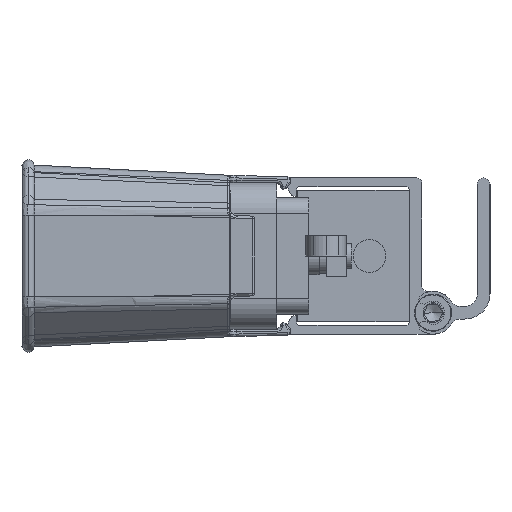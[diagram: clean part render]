
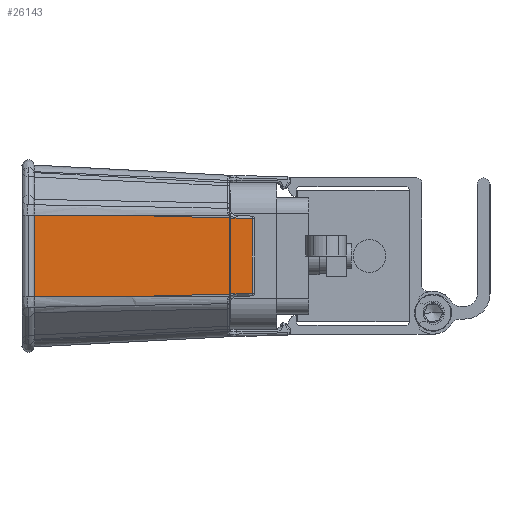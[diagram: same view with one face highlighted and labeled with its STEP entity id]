
A CAD part, left-side view. The second image highlights one B-rep face of the part: STEP entity #26143.
In plain terms, the highlighted planar face has unit normal (-1, -0.026, 0).
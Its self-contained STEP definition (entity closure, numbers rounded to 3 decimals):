
#382 = ORIENTED_EDGE ( 'NONE', *, *, #8982, .T. ) ;
#582 = ORIENTED_EDGE ( 'NONE', *, *, #9330, .F. ) ;
#585 = VERTEX_POINT ( 'NONE', #29324 ) ;
#809 = ORIENTED_EDGE ( 'NONE', *, *, #15635, .F. ) ;
#828 = B_SPLINE_CURVE_WITH_KNOTS ( 'NONE', 3,
 ( #26530, #16828, #1366, #14725 ),
 .UNSPECIFIED., .F., .F.,
 ( 4, 4 ),
 ( -0.02, -0.001 ),
 .UNSPECIFIED. ) ;
#904 = CARTESIAN_POINT ( 'NONE',  ( -60., 35.595, -7.536 ) ) ;
#1366 = CARTESIAN_POINT ( 'NONE',  ( -60.847, 67.914, 7.986 ) ) ;
#1507 = VECTOR ( 'NONE', #26391, 1000. ) ;
#1959 = CARTESIAN_POINT ( 'NONE',  ( -60.171, 42.111, -7.707 ) ) ;
#2278 = CARTESIAN_POINT ( 'NONE',  ( -60.512, 55.132, -8.048 ) ) ;
#2566 = CARTESIAN_POINT ( 'NONE',  ( -59.882, 31.087, 7.418 ) ) ;
#2718 = VERTEX_POINT ( 'NONE', #24676 ) ;
#2983 = DIRECTION ( 'NONE',  ( -0.026, 0.999, 0.026 ) ) ;
#3059 = VERTEX_POINT ( 'NONE', #2566 ) ;
#3884 = DIRECTION ( 'NONE',  ( 0., 0., -1. ) ) ;
#4046 = EDGE_CURVE ( 'NONE', #22804, #5780, #22390, .T. ) ;
#4055 = CARTESIAN_POINT ( 'NONE',  ( -59.882, 31.087, -7.405 ) ) ;
#4831 = CARTESIAN_POINT ( 'NONE',  ( -60., 35.595, 7.536 ) ) ;
#4863 = AXIS2_PLACEMENT_3D ( 'NONE', #24491, #15410, #3884 ) ;
#4906 = ORIENTED_EDGE ( 'NONE', *, *, #29124, .T. ) ;
#5229 = ORIENTED_EDGE ( 'NONE', *, *, #5964, .T. ) ;
#5780 = VERTEX_POINT ( 'NONE', #16556 ) ;
#5964 = EDGE_CURVE ( 'NONE', #25577, #585, #828, .T. ) ;
#7322 = VECTOR ( 'NONE', #29148, 1000. ) ;
#7876 = VECTOR ( 'NONE', #22821, 1000. ) ;
#8279 = PLANE ( 'NONE',  #4863 ) ;
#8285 = ORIENTED_EDGE ( 'NONE', *, *, #26868, .F. ) ;
#8551 = CARTESIAN_POINT ( 'NONE',  ( -60.001, 35.6, 7.536 ) ) ;
#8583 = LINE ( 'NONE', #4055, #26739 ) ;
#8779 = EDGE_LOOP ( 'NONE', ( #4906, #582, #21867, #9567, #8285, #11325, #23392, #382, #809, #5229 ) ) ;
#8982 = EDGE_CURVE ( 'NONE', #15504, #16704, #16492, .T. ) ;
#9330 = EDGE_CURVE ( 'NONE', #22804, #22684, #27662, .T. ) ;
#9567 = ORIENTED_EDGE ( 'NONE', *, *, #24868, .F. ) ;
#10181 = VECTOR ( 'NONE', #2983, 1000. ) ;
#11151 = CARTESIAN_POINT ( 'NONE',  ( -60., 35.595, -7.536 ) ) ;
#11155 = DIRECTION ( 'NONE',  ( 0., 0., -1. ) ) ;
#11310 = LINE ( 'NONE', #11151, #7876 ) ;
#11325 = ORIENTED_EDGE ( 'NONE', *, *, #21974, .F. ) ;
#11370 = CARTESIAN_POINT ( 'NONE',  ( -60.001, 35.6, -7.536 ) ) ;
#11877 = CARTESIAN_POINT ( 'NONE',  ( -61.014, 74.304, -8.043 ) ) ;
#12256 = VERTEX_POINT ( 'NONE', #28893 ) ;
#12546 = VECTOR ( 'NONE', #29840, 1000. ) ;
#14513 = LINE ( 'NONE', #23746, #10181 ) ;
#14725 = CARTESIAN_POINT ( 'NONE',  ( -61.014, 74.304, 8.043 ) ) ;
#15410 = DIRECTION ( 'NONE',  ( -1., -0.026, 0. ) ) ;
#15504 = VERTEX_POINT ( 'NONE', #26281 ) ;
#15635 = EDGE_CURVE ( 'NONE', #25577, #16704, #22319, .T. ) ;
#16492 = LINE ( 'NONE', #4831, #12546 ) ;
#16499 = CARTESIAN_POINT ( 'NONE',  ( -60.512, 55.132, -8.048 ) ) ;
#16556 = CARTESIAN_POINT ( 'NONE',  ( -60.001, 35.6, -7.536 ) ) ;
#16704 = VERTEX_POINT ( 'NONE', #20082 ) ;
#16828 = CARTESIAN_POINT ( 'NONE',  ( -60.679, 61.523, 8.018 ) ) ;
#17355 = FACE_OUTER_BOUND ( 'NONE', #8779, .T. ) ;
#17624 = CARTESIAN_POINT ( 'NONE',  ( -61.014, 74.304, -8.056 ) ) ;
#17637 = EDGE_CURVE ( 'NONE', #3059, #15504, #14513, .T. ) ;
#18487 = CARTESIAN_POINT ( 'NONE',  ( -60.341, 48.622, -7.877 ) ) ;
#19145 = CARTESIAN_POINT ( 'NONE',  ( -60.847, 67.914, -7.986 ) ) ;
#20051 = LINE ( 'NONE', #17624, #7322 ) ;
#20075 = CARTESIAN_POINT ( 'NONE',  ( -60.512, 55.132, 8.048 ) ) ;
#20082 = CARTESIAN_POINT ( 'NONE',  ( -60.001, 35.6, 7.536 ) ) ;
#21263 = CARTESIAN_POINT ( 'NONE',  ( -60.512, 55.132, -8.048 ) ) ;
#21426 = CARTESIAN_POINT ( 'NONE',  ( -60.679, 61.523, -8.018 ) ) ;
#21867 = ORIENTED_EDGE ( 'NONE', *, *, #4046, .T. ) ;
#21974 = EDGE_CURVE ( 'NONE', #3059, #12256, #8583, .T. ) ;
#22319 = B_SPLINE_CURVE_WITH_KNOTS ( 'NONE', 3,
 ( #20075, #29170, #22351, #8551 ),
 .UNSPECIFIED., .F., .F.,
 ( 4, 4 ),
 ( 0., 1. ),
 .UNSPECIFIED. ) ;
#22351 = CARTESIAN_POINT ( 'NONE',  ( -60.171, 42.111, 7.707 ) ) ;
#22390 = B_SPLINE_CURVE_WITH_KNOTS ( 'NONE', 3,
 ( #16499, #18487, #1959, #11370 ),
 .UNSPECIFIED., .F., .F.,
 ( 4, 4 ),
 ( 0., 1. ),
 .UNSPECIFIED. ) ;
#22684 = VERTEX_POINT ( 'NONE', #24729 ) ;
#22804 = VERTEX_POINT ( 'NONE', #2278 ) ;
#22821 = DIRECTION ( 'NONE',  ( -0.026, 0.999, -0.026 ) ) ;
#23392 = ORIENTED_EDGE ( 'NONE', *, *, #17637, .T. ) ;
#23746 = CARTESIAN_POINT ( 'NONE',  ( -60., 35.595, 7.536 ) ) ;
#24491 = CARTESIAN_POINT ( 'NONE',  ( -59.999, 35.561, -8.864 ) ) ;
#24676 = CARTESIAN_POINT ( 'NONE',  ( -59.962, 34.139, -7.498 ) ) ;
#24729 = CARTESIAN_POINT ( 'NONE',  ( -61.014, 74.304, -8.043 ) ) ;
#24868 = EDGE_CURVE ( 'NONE', #2718, #5780, #11310, .T. ) ;
#25577 = VERTEX_POINT ( 'NONE', #25901 ) ;
#25901 = CARTESIAN_POINT ( 'NONE',  ( -60.512, 55.132, 8.048 ) ) ;
#26143 = ADVANCED_FACE ( 'NONE', ( #17355 ), #8279, .T. ) ;
#26281 = CARTESIAN_POINT ( 'NONE',  ( -59.962, 34.139, 7.498 ) ) ;
#26391 = DIRECTION ( 'NONE',  ( -0.026, 0.999, -0.026 ) ) ;
#26530 = CARTESIAN_POINT ( 'NONE',  ( -60.512, 55.132, 8.048 ) ) ;
#26739 = VECTOR ( 'NONE', #11155, 1000. ) ;
#26868 = EDGE_CURVE ( 'NONE', #12256, #2718, #28676, .T. ) ;
#27662 = B_SPLINE_CURVE_WITH_KNOTS ( 'NONE', 3,
 ( #21263, #21426, #19145, #11877 ),
 .UNSPECIFIED., .F., .F.,
 ( 4, 4 ),
 ( -0.02, -0.001 ),
 .UNSPECIFIED. ) ;
#28676 = LINE ( 'NONE', #904, #1507 ) ;
#28893 = CARTESIAN_POINT ( 'NONE',  ( -59.882, 31.087, -7.418 ) ) ;
#29124 = EDGE_CURVE ( 'NONE', #585, #22684, #20051, .T. ) ;
#29148 = DIRECTION ( 'NONE',  ( 0., 0., -1. ) ) ;
#29170 = CARTESIAN_POINT ( 'NONE',  ( -60.341, 48.622, 7.877 ) ) ;
#29324 = CARTESIAN_POINT ( 'NONE',  ( -61.014, 74.304, 8.043 ) ) ;
#29840 = DIRECTION ( 'NONE',  ( -0.026, 0.999, 0.026 ) ) ;
